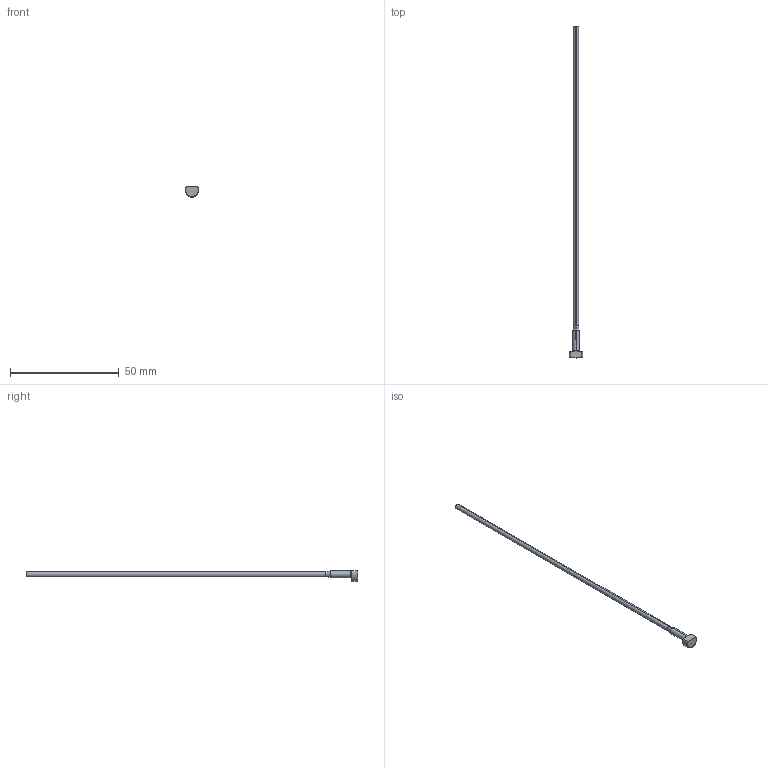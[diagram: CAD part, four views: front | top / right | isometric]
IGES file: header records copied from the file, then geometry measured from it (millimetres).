
Start section: SolidWorks IGES file using analytic representation for surfaces
Global section: file name: C:\Users\pcic_01KAK2013\OneDrive - Progressive Components\Desktop\Daily CAD\WEBSITE CAD\PRO SAVE EXPORT\M-2 Shoulder -K\EPM094L6-05-K.igs; native system: SolidWorks 2020; preprocessor: SolidWorks 2020; author: pcic_01KAK2013; date: 240228.151915; units: inch
Bounding box: 6.35 x 152.4 x 4.76 mm (x, y, z)
Surface area: 1243.8 mm2 (no closed solid volume)
Topology: 0 solids, 0 shells, 16 faces, 171 edges, 171 vertices
Faces by surface type: bspline 8, revolution 8
